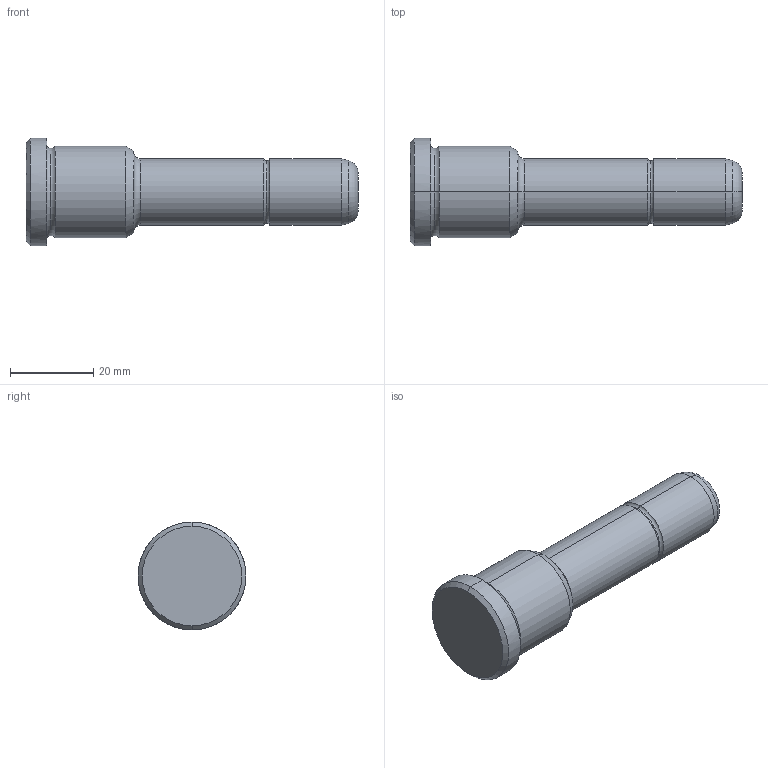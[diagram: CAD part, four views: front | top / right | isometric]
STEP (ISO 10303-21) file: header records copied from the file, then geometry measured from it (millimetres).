
FILE_DESCRIPTION(('CATIA V5 STEP Exchange'),'2;1');
FILE_NAME('C:\Users\Utente\Desktop\IO LAVORO\3D X SITO CF\X SITO\PLASTICA\351\351-16X26X80.stp','2021-08-18T10:52:43+00:00',('none'),('none'),'CATIA Version 5 Release 20 GA (IN-10)','CATIA V5 STEP AP203','none');
FILE_SCHEMA(('CONFIG_CONTROL_DESIGN'));
Length unit declared in the file: millimetre
Products named in the file (1): 351-16X26X80
Bounding box: 80 x 26 x 26 mm (x, y, z)
Volume: 21183.2 mm3; surface area: 5439.2 mm2
Topology: 1 solids, 1 shells, 30 faces, 86 edges, 60 vertices
Faces by surface type: torus 12, cylinder 8, cone 6, plane 4
Entity records: 1112 total; most frequent: CARTESIAN_POINT 289, ORIENTED_EDGE 172, DIRECTION 138, AXIS2_PLACEMENT_3D 95, EDGE_CURVE 86, CIRCLE 64, VERTEX_POINT 60, EDGE_LOOP 32
